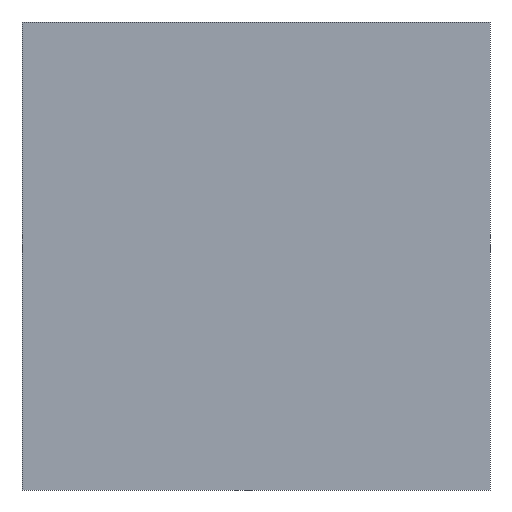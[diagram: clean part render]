
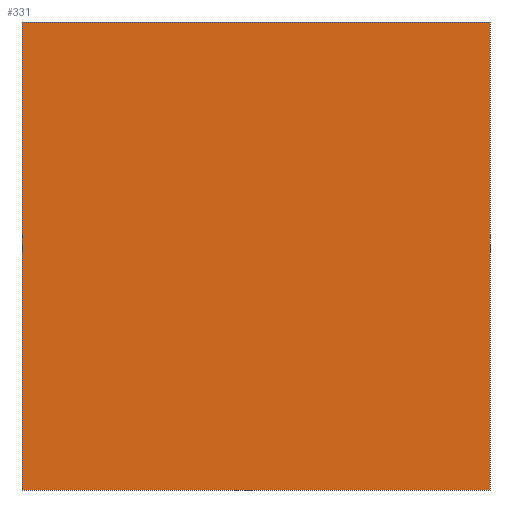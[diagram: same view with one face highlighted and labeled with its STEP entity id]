
A CAD part, front view. The second image highlights one B-rep face of the part: STEP entity #331.
In plain terms, the highlighted planar face has unit normal (0, -1, 0).
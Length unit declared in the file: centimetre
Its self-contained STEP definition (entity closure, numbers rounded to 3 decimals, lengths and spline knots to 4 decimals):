
#39 = EDGE_CURVE ( 'NONE', #464, #295, #107, .T. ) ;
#53 = DIRECTION ( 'NONE',  ( 0., 0., -1. ) ) ;
#71 = EDGE_CURVE ( 'NONE', #464, #363, #706, .T. ) ;
#74 = FACE_OUTER_BOUND ( 'NONE', #685, .T. ) ;
#91 = CARTESIAN_POINT ( 'NONE',  ( 1000., 0., 1000. ) ) ;
#97 = CARTESIAN_POINT ( 'NONE',  ( 0., 0., 0. ) ) ;
#107 = LINE ( 'NONE', #180, #406 ) ;
#180 = CARTESIAN_POINT ( 'NONE',  ( 0., 0., 1000. ) ) ;
#217 = VECTOR ( 'NONE', #423, 100. ) ;
#224 = ORIENTED_EDGE ( 'NONE', *, *, #314, .T. ) ;
#235 = VECTOR ( 'NONE', #323, 100. ) ;
#259 = CARTESIAN_POINT ( 'NONE',  ( 0., 0., 1000. ) ) ;
#279 = CARTESIAN_POINT ( 'NONE',  ( 0., 0., 0. ) ) ;
#284 = VECTOR ( 'NONE', #621, 100. ) ;
#290 = ORIENTED_EDGE ( 'NONE', *, *, #491, .F. ) ;
#295 = VERTEX_POINT ( 'NONE', #97 ) ;
#314 = EDGE_CURVE ( 'NONE', #295, #455, #399, .T. ) ;
#316 = CARTESIAN_POINT ( 'NONE',  ( 0., 0., 1000. ) ) ;
#323 = DIRECTION ( 'NONE',  ( 0., 0., -1. ) ) ;
#331 = ADVANCED_FACE ( 'NONE', ( #74 ), #718, .F. ) ;
#332 = LINE ( 'NONE', #91, #235 ) ;
#363 = VERTEX_POINT ( 'NONE', #709 ) ;
#399 = LINE ( 'NONE', #279, #284 ) ;
#406 = VECTOR ( 'NONE', #53, 100. ) ;
#423 = DIRECTION ( 'NONE',  ( 1., 0., 0. ) ) ;
#455 = VERTEX_POINT ( 'NONE', #703 ) ;
#464 = VERTEX_POINT ( 'NONE', #490 ) ;
#473 = DIRECTION ( 'NONE',  ( 0., 1., 0. ) ) ;
#490 = CARTESIAN_POINT ( 'NONE',  ( 0., 0., 1000. ) ) ;
#491 = EDGE_CURVE ( 'NONE', #363, #455, #332, .T. ) ;
#532 = DIRECTION ( 'NONE',  ( 0., 0., 1. ) ) ;
#571 = ORIENTED_EDGE ( 'NONE', *, *, #39, .T. ) ;
#621 = DIRECTION ( 'NONE',  ( 1., 0., 0. ) ) ;
#685 = EDGE_LOOP ( 'NONE', ( #224, #290, #708, #571 ) ) ;
#703 = CARTESIAN_POINT ( 'NONE',  ( 1000., 0., 0. ) ) ;
#706 = LINE ( 'NONE', #259, #217 ) ;
#708 = ORIENTED_EDGE ( 'NONE', *, *, #71, .F. ) ;
#709 = CARTESIAN_POINT ( 'NONE',  ( 1000., 0., 1000. ) ) ;
#710 = AXIS2_PLACEMENT_3D ( 'NONE', #316, #473, #532 ) ;
#718 = PLANE ( 'NONE',  #710 ) ;
